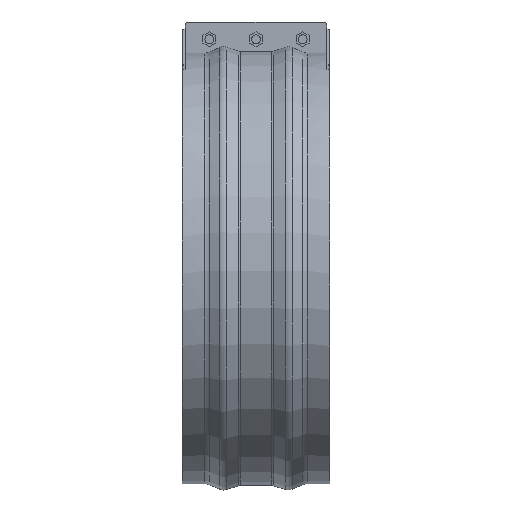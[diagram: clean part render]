
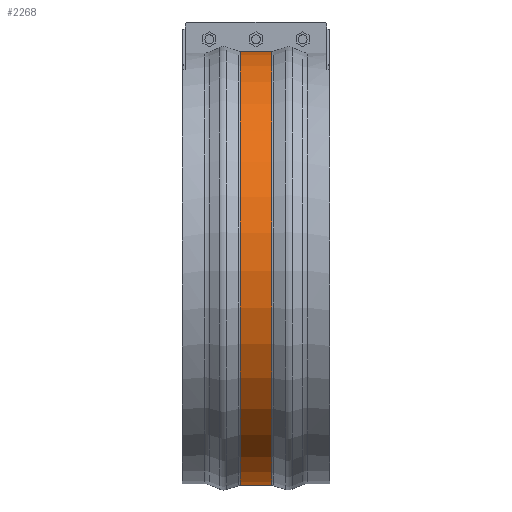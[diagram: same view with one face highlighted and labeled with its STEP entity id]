
A CAD part, front view. The second image highlights one B-rep face of the part: STEP entity #2268.
In plain terms, the highlighted cylindrical face has radius 467.027 mm (diameter 934.054 mm), a partial arc.
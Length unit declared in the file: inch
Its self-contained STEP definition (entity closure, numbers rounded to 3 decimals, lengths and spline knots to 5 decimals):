
#266=FACE_OUTER_BOUND('',#395,.T.);
#395=EDGE_LOOP('',(#1872,#1873,#1874,#1875));
#597=LINE('',#3675,#788);
#602=LINE('',#3760,#793);
#788=VECTOR('',#2968,0.3937);
#793=VECTOR('',#2977,0.3937);
#848=CIRCLE('',#2449,18.38689);
#849=CIRCLE('',#2451,18.38689);
#1054=VERTEX_POINT('',#3667);
#1055=VERTEX_POINT('',#3674);
#1066=VERTEX_POINT('',#3752);
#1067=VERTEX_POINT('',#3759);
#1333=EDGE_CURVE('',#1055,#1054,#597,.T.);
#1348=EDGE_CURVE('',#1067,#1066,#602,.T.);
#1360=EDGE_CURVE('',#1055,#1066,#848,.T.);
#1361=EDGE_CURVE('',#1054,#1067,#849,.T.);
#1872=ORIENTED_EDGE('',*,*,#1333,.T.);
#1873=ORIENTED_EDGE('',*,*,#1361,.T.);
#1874=ORIENTED_EDGE('',*,*,#1348,.T.);
#1875=ORIENTED_EDGE('',*,*,#1360,.F.);
#2053=CYLINDRICAL_SURFACE('',#2450,18.38689);
#2268=ADVANCED_FACE('',(#266),#2053,.T.);
#2449=AXIS2_PLACEMENT_3D('',#3810,#2999,#3000);
#2450=AXIS2_PLACEMENT_3D('',#3811,#3001,#3002);
#2451=AXIS2_PLACEMENT_3D('',#3812,#3003,#3004);
#2968=DIRECTION('',(-1.,0.,0.));
#2977=DIRECTION('',(1.,0.,0.));
#2999=DIRECTION('center_axis',(1.,0.,0.));
#3000=DIRECTION('ref_axis',(0.,0.,-1.));
#3001=DIRECTION('center_axis',(1.,0.,0.));
#3002=DIRECTION('ref_axis',(0.,0.,
-1.));
#3003=DIRECTION('center_axis',(1.,0.,0.));
#3004=DIRECTION('ref_axis',(0.,0.,-1.));
#3667=CARTESIAN_POINT('',(-1.31451,-0.375,18.38306));
#3674=CARTESIAN_POINT('',(1.31451,-0.375,18.38306));
#3675=CARTESIAN_POINT('',(0.,-0.375,18.38306));
#3752=CARTESIAN_POINT('',(1.31451,0.375,18.38306));
#3759=CARTESIAN_POINT('',(-1.31451,0.375,18.38306));
#3760=CARTESIAN_POINT('',(0.,0.375,18.38306));
#3810=CARTESIAN_POINT('Origin',(1.31451,0.,0.));
#3811=CARTESIAN_POINT('Origin',(0.,0.,0.));
#3812=CARTESIAN_POINT('Origin',(-1.31451,0.,
0.));
